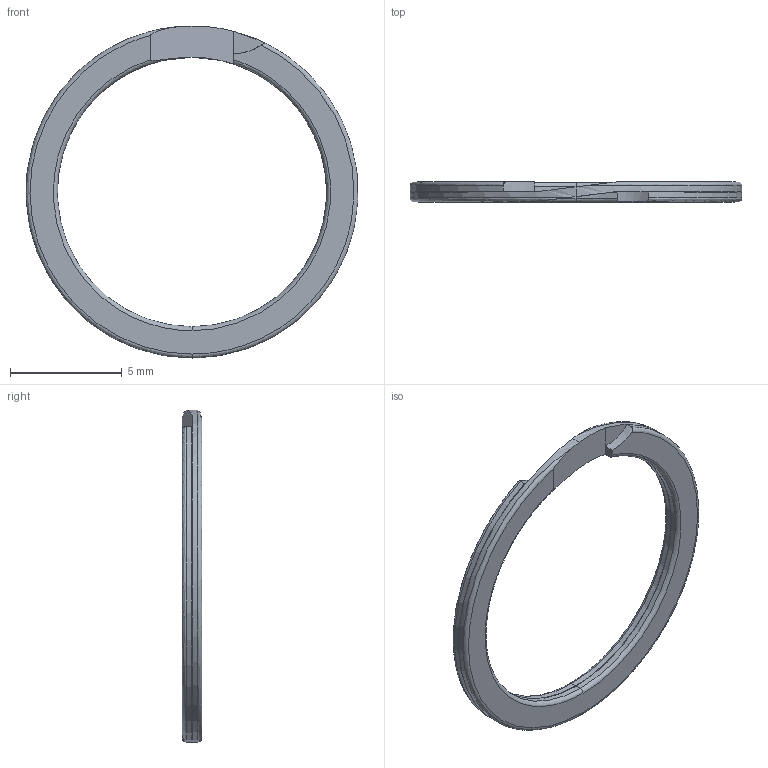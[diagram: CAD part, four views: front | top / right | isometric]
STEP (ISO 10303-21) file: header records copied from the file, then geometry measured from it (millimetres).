
FILE_DESCRIPTION (( 'STEP AP203' ), '1' );
FILE_NAME ('EH-14_Snap_Ring.STEP', '2020-12-18T22:04:43', ( '' ), ( '' ), 'SwSTEP 2.0', 'SolidWorks 2020', '' );
FILE_SCHEMA (( 'CONFIG_CONTROL_DESIGN' ));
Length unit declared in the file: millimetre
Products named in the file (1): EH-14_Snap_Ring
Bounding box: 14.84 x 0.89 x 14.85 mm (x, y, z)
Volume: 47.4 mm3; surface area: 281.7 mm2
Topology: 1 solids, 1 shells, 26 faces, 68 edges, 44 vertices
Faces by surface type: cylinder 10, bspline 8, plane 8
Entity records: 1035 total; most frequent: CARTESIAN_POINT 389, ORIENTED_EDGE 136, DIRECTION 106, EDGE_CURVE 68, VERTEX_POINT 44, AXIS2_PLACEMENT_3D 43, FACE_OUTER_BOUND 26, EDGE_LOOP 26
